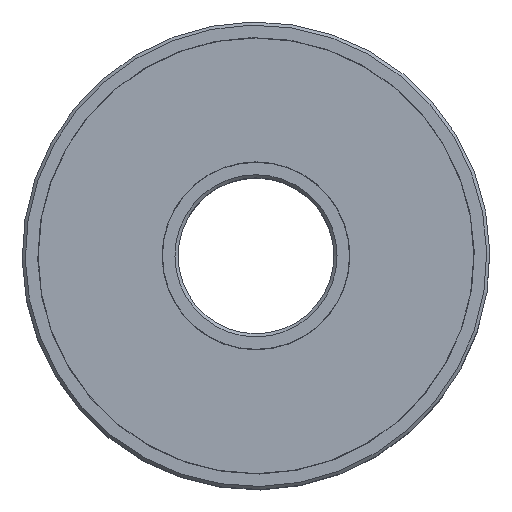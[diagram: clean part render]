
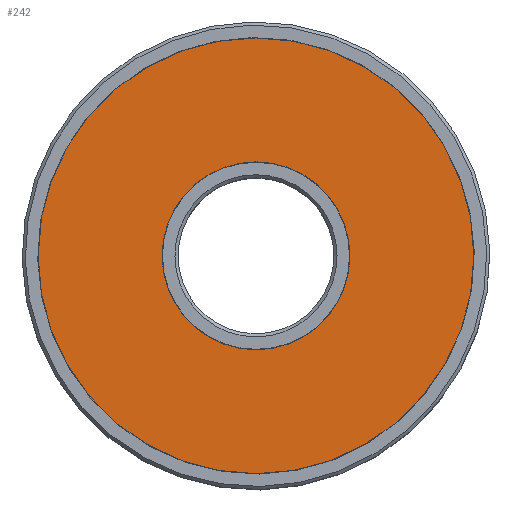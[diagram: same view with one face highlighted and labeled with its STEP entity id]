
A CAD part, top view. The second image highlights one B-rep face of the part: STEP entity #242.
In plain terms, the highlighted planar face has unit normal (0, 0, 1).
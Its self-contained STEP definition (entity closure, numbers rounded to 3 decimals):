
#44=FACE_BOUND('',#75,.T.);
#50=PLANE('',#328);
#58=FACE_OUTER_BOUND('',#74,.T.);
#74=EDGE_LOOP('',(#186));
#75=EDGE_LOOP('',(#187));
#114=CIRCLE('',#323,6.025);
#116=CIRCLE('',#326,13.975);
#132=VERTEX_POINT('',#459);
#134=VERTEX_POINT('',#465);
#150=EDGE_CURVE('',#132,#132,#114,.T.);
#153=EDGE_CURVE('',#134,#134,#116,.T.);
#186=ORIENTED_EDGE('',*,*,#153,.T.);
#187=ORIENTED_EDGE('',*,*,#150,.T.);
#242=ADVANCED_FACE('',(#58,#44),#50,.T.);
#323=AXIS2_PLACEMENT_3D('',#460,#368,#369);
#326=AXIS2_PLACEMENT_3D('',#466,#375,#376);
#328=AXIS2_PLACEMENT_3D('',#470,#380,#381);
#368=DIRECTION('center_axis',(0.,0.,-1.));
#369=DIRECTION('ref_axis',(-1.,0.,0.));
#375=DIRECTION('center_axis',(0.,0.,1.));
#376=DIRECTION('ref_axis',(1.,0.,0.));
#380=DIRECTION('center_axis',(0.,0.,1.));
#381=DIRECTION('ref_axis',(1.,0.,0.));
#459=CARTESIAN_POINT('',(6.025,0.,13.8));
#460=CARTESIAN_POINT('Origin',(0.,0.,13.8));
#465=CARTESIAN_POINT('',(-13.975,0.,13.8));
#466=CARTESIAN_POINT('Origin',(0.,0.,13.8));
#470=CARTESIAN_POINT('Origin',(0.,0.,13.8));
